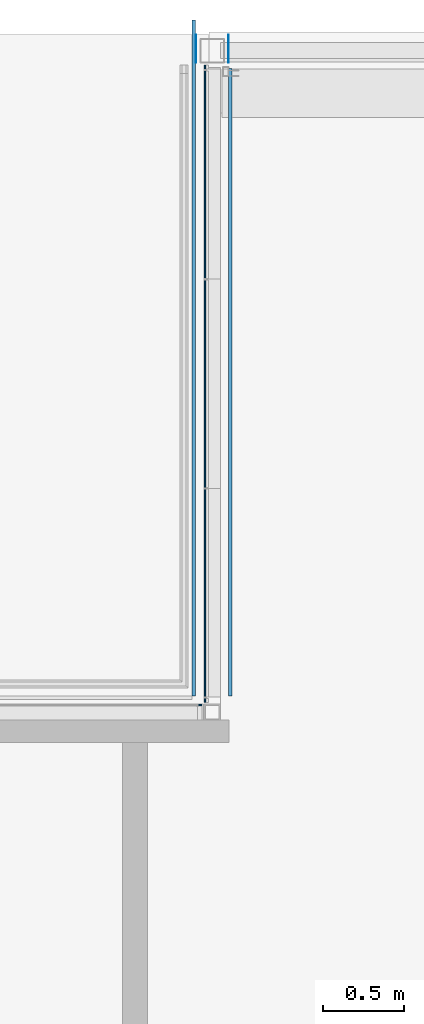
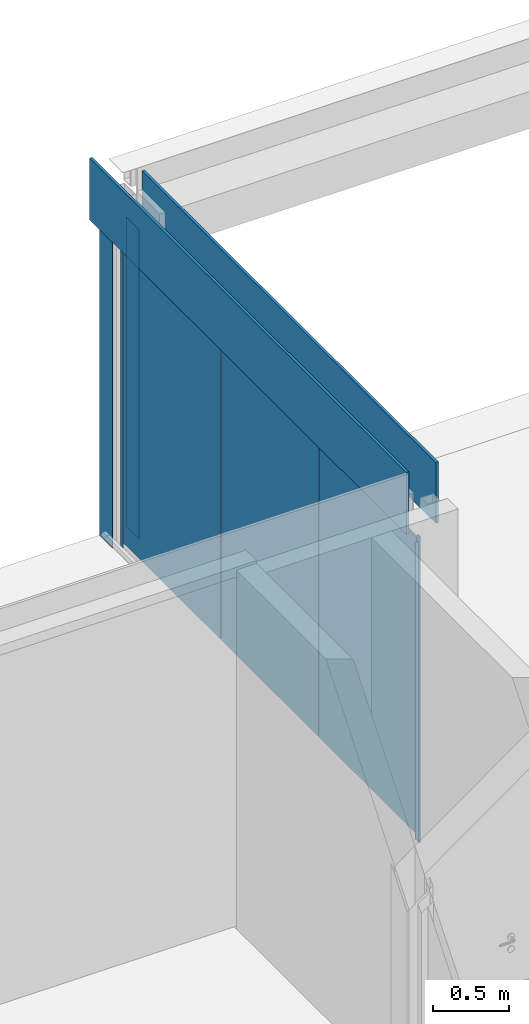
# One storey, part 16 of 37: 11 plates, 7 elements without a shape of their own.
"""IFC2X3 building model written with IfcOpenShell, lengths in millimetres."""

from ifc_helpers import new_model, entity, si_unit, converted_unit, derived_unit, direction, frame, origin, origin_with_axes, origin_2d_with_axis, place, context, subcontext, project, spatial, rectangle, extrude, source, transform, mapped, material, type_object, element, aggregate, save


model = new_model("IFC2X3")

# Units and contexts
model_context = context("Model", 3, precision=0.01, world=frame((0.0, 4.29681676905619e-09, 0.0)), true_north=direction((4.01073788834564e-13, 1.0)))
plan_context = context("Plan", 3, precision=0.01, world=frame((0.0, 4.29681676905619e-09, 0.0)), true_north=direction((4.01073788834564e-13, 1.0)))
body_context = subcontext(model_context, "Body", "Model", "MODEL_VIEW")
ifc_project = project(units=[converted_unit("PLANEANGLEUNIT", "DEGREE", entity("IfcPositiveLengthMeasure", 0.0174532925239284), si_unit("PLANEANGLEUNIT", "RADIAN"), dimensions=[0, 0, 0, 0, 0, 0, 0]), si_unit("AREAUNIT", "SQUARE_METRE"), si_unit("LENGTHUNIT", "METRE", prefix="MILLI"), si_unit("MASSUNIT", "GRAM", prefix="KILO"), si_unit("POWERUNIT", "WATT"), si_unit("PRESSUREUNIT", "PASCAL"), si_unit("FORCEUNIT", "NEWTON", prefix="KILO"), si_unit("ELECTRICVOLTAGEUNIT", "VOLT"), si_unit("ELECTRICCURRENTUNIT", "AMPERE"), si_unit("THERMODYNAMICTEMPERATUREUNIT", "DEGREE_CELSIUS"), si_unit("TIMEUNIT", "SECOND"), si_unit("VOLUMEUNIT", "CUBIC_METRE"), derived_unit("LINEARVELOCITYUNIT", [(si_unit("LENGTHUNIT", "METRE"), 1), (si_unit("TIMEUNIT", "SECOND"), -1)]), derived_unit("VOLUMETRICFLOWRATEUNIT", [(si_unit("VOLUMEUNIT", "CUBIC_METRE"), 1), (si_unit("TIMEUNIT", "SECOND"), -1)]), derived_unit("THERMALTRANSMITTANCEUNIT", [(si_unit("POWERUNIT", "WATT"), 1), (si_unit("THERMODYNAMICTEMPERATUREUNIT", "KELVIN"), -1), (si_unit("AREAUNIT", "SQUARE_METRE"), -1)]), derived_unit("SOUNDPRESSUREUNIT", [(si_unit("PRESSUREUNIT", "PASCAL"), 1)])], contexts=[model_context, plan_context])

# Site, building, storey
site_placement = place(None, origin_with_axes())
site = spatial("IfcSite", under=ifc_project, at=site_placement, Name="ENGM", CompositionType="ELEMENT")
building_placement = place(site_placement, origin_with_axes())
building = spatial("IfcBuilding", under=site, at=building_placement, Name="TS", CompositionType="ELEMENT")
storey_placement = place(building_placement, frame((0.0, 0.0, 210900.0), z_axis=(0.0, 0.0, 1.0), x_axis=(1.0, 0.0, 0.0)))
storey = spatial("IfcBuildingStorey", under=building, at=storey_placement, Name="Nivå F", CompositionType="ELEMENT", Elevation=210900.0)

# Curtain wall, plate
curtain_wall_type_1 = type_object("IfcCurtainWallType", Name="Curtain Wall:A245 - IMK - Metal Kledning", PredefinedType="NOTDEFINED")
curtain_wall_1_placement = place(storey_placement, frame((0.0, 0.0, -210900.0), z_axis=(0.0, 0.0, 1.0), x_axis=(1.0, 0.0, 0.0)))
curtain_wall_1 = element("IfcCurtainWall", 1, at=curtain_wall_1_placement, inside=storey, type_object=curtain_wall_type_1, Name="Curtain Wall:A245 - IMK - Metal Kledning", ObjectType="Curtain Wall:A245 - IMK - Metal Kledning")
ifc_material_1 = material(Name="Metal - Preget plate")
plate_type_1 = type_object("IfcPlateType", Name="System Panel:A245 - KL-M00 - - - skal byttes manuelt", PredefinedType="CURTAIN_PANEL", material=ifc_material_1)
shared_shape_1 = source(origin(), body_context, "Body", "SweptSolid", [
    extrude(rectangle(XDim=20.0, YDim=4189.99999999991, at=origin_2d_with_axis()), frame((0.0, 10.0, 0.0), z_axis=(0.0, 0.0, 1.0), x_axis=(0.0, 1.0, 0.0)), (0.0, 0.0, 1.0), 500.000000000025),
])
plate_1_placement = place(curtain_wall_1_placement, frame((524845.000000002, 459894.999999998, 213400.0), z_axis=(0.0, 0.0, 1.0), x_axis=(0.0, -1.0, 0.0)))
plate_1 = element("IfcPlate", 2, at=plate_1_placement, type_object=plate_type_1, material=ifc_material_1, Name="System Panel:A245 - KL-M00 - - - skal byttes manuelt", ObjectType="System Panel:A245 - KL-M00 - - - skal byttes manuelt", context=body_context, shape_type="MappedRepresentation", body=[
    mapped(shared_shape_1, transform((0.0, 0.0, 0.0), scale=1.0)),
])
aggregate(curtain_wall_1, [plate_1])

curtain_wall_2_placement = place(storey_placement, frame((0.0, 0.0, -210900.0), z_axis=(0.0, 0.0, 1.0), x_axis=(1.0, 0.0, 0.0)))
curtain_wall_2 = element("IfcCurtainWall", 3, at=curtain_wall_2_placement, inside=storey, type_object=curtain_wall_type_1, Name="Curtain Wall:A245 - IMK - Metal Kledning", ObjectType="Curtain Wall:A245 - IMK - Metal Kledning")
plate_type_2 = type_object("IfcPlateType", Name="System Panel:A245 - KL-M00 - - - skal byttes manuelt", PredefinedType="CURTAIN_PANEL", material=ifc_material_1)
shared_shape_2 = source(origin(), body_context, "Body", "SweptSolid", [
    extrude(rectangle(XDim=20.0, YDim=3889.99999999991, at=origin_2d_with_axis()), frame((0.0, -10.0, 0.0), z_axis=(0.0, 0.0, 1.0), x_axis=(0.0, 1.0, 0.0)), (0.0, 0.0, 1.0), 489.999999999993),
])
plate_2_placement = place(curtain_wall_2_placement, frame((525091.097587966, 459744.999999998, 213410.0), z_axis=(0.0, 0.0, 1.0), x_axis=(0.0, -1.0, 0.0)))
plate_2 = element("IfcPlate", 4, at=plate_2_placement, type_object=plate_type_2, material=ifc_material_1, Name="System Panel:A245 - KL-M00 - - - skal byttes manuelt", ObjectType="System Panel:A245 - KL-M00 - - - skal byttes manuelt", context=body_context, shape_type="MappedRepresentation", body=[
    mapped(shared_shape_2, transform((0.0, 0.0, 0.0), scale=1.0)),
])
aggregate(curtain_wall_2, [plate_2])

curtain_wall_type_2 = type_object("IfcCurtainWallType", Name="Curtain Wall:A245 - IMK - Metal Kledning 3mm", PredefinedType="NOTDEFINED")
curtain_wall_3_placement = place(storey_placement, frame((0.0, 0.0, -210900.0), z_axis=(0.0, 0.0, 1.0), x_axis=(1.0, 0.0, 0.0)))
curtain_wall_3 = element("IfcCurtainWall", 5, at=curtain_wall_3_placement, inside=storey, type_object=curtain_wall_type_2, Name="Curtain Wall:A245 - IMK - Metal Kledning 3mm", ObjectType="Curtain Wall:A245 - IMK - Metal Kledning 3mm")
ifc_material_2 = material(Name="T2_Metal_Aluminium")
plate_type_3 = type_object("IfcPlateType", Name="System Panel:A245 - KL-M01 - Veggkledning metallplate plan", PredefinedType="CURTAIN_PANEL", material=ifc_material_2)
shared_shape_3 = source(origin(), body_context, "Body", "SweptSolid", [
    extrude(rectangle(XDim=3.0, YDim=175.000000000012, at=origin_2d_with_axis()), frame((0.0, 1.5, 0.0), z_axis=(0.0, 0.0, 1.0), x_axis=(0.0, 1.0, 0.0)), (0.0, 0.0, 1.0), 2499.99999999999),
])
plate_3_placement = place(curtain_wall_3_placement, frame((524870.000000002, 461812.499999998, 210900.0), z_axis=(0.0, 0.0, 1.0), x_axis=(0.0, 1.0, 0.0)))
plate_3 = element("IfcPlate", 6, at=plate_3_placement, type_object=plate_type_3, material=ifc_material_2, Name="System Panel:A245 - KL-M01 - Veggkledning metallplate plan", ObjectType="System Panel:A245 - KL-M01 - Veggkledning metallplate plan", context=body_context, shape_type="MappedRepresentation", body=[
    mapped(shared_shape_3, transform((0.0, 0.0, 0.0), scale=1.0)),
])
aggregate(curtain_wall_3, [plate_3])

curtain_wall_4_placement = place(storey_placement, frame((0.0, 0.0, -210900.0), z_axis=(0.0, 0.0, 1.0), x_axis=(1.0, 0.0, 0.0)))
curtain_wall_4 = element("IfcCurtainWall", 7, at=curtain_wall_4_placement, inside=storey, type_object=curtain_wall_type_2, Name="Curtain Wall:A245 - IMK - Metal Kledning 3mm", ObjectType="Curtain Wall:A245 - IMK - Metal Kledning 3mm")
plate_type_4 = type_object("IfcPlateType", Name="System Panel:A245 - KL-M01 - Veggkledning metallplate plan", PredefinedType="CURTAIN_PANEL", material=ifc_material_2)
shared_shape_4 = source(origin(), body_context, "Body", "SweptSolid", [
    extrude(rectangle(XDim=3.0, YDim=175.000000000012, at=origin_2d_with_axis()), frame((0.0, -1.5, 0.0), z_axis=(0.0, 0.0, 1.0), x_axis=(0.0, 1.0, 0.0)), (0.0, 0.0, 1.0), 2499.99999999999),
])
plate_4_placement = place(curtain_wall_4_placement, frame((525070.000000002, 461812.499999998, 210900.0), z_axis=(0.0, 0.0, 1.0), x_axis=(0.0, 1.0, 0.0)))
plate_4 = element("IfcPlate", 8, at=plate_4_placement, type_object=plate_type_4, material=ifc_material_2, Name="System Panel:A245 - KL-M01 - Veggkledning metallplate plan", ObjectType="System Panel:A245 - KL-M01 - Veggkledning metallplate plan", context=body_context, shape_type="MappedRepresentation", body=[
    mapped(shared_shape_4, transform((0.0, 0.0, 0.0), scale=1.0)),
])
aggregate(curtain_wall_4, [plate_4])

curtain_wall_5_placement = place(storey_placement, frame((0.0, 0.0, -210900.0), z_axis=(0.0, 0.0, 1.0), x_axis=(1.0, 0.0, 0.0)))
curtain_wall_5 = element("IfcCurtainWall", 9, at=curtain_wall_5_placement, inside=storey, type_object=curtain_wall_type_2, Name="Curtain Wall:A245 - IMK - Metal Kledning 3mm", ObjectType="Curtain Wall:A245 - IMK - Metal Kledning 3mm")
plate_5_placement = place(curtain_wall_5_placement, frame((525070.000000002, 461812.499999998, 210900.0), z_axis=(0.0, 0.0, 1.0), x_axis=(0.0, 1.0, 0.0)))
plate_5 = element("IfcPlate", 10, at=plate_5_placement, type_object=plate_type_4, material=ifc_material_2, Name="System Panel:A245 - KL-M01 - Veggkledning metallplate plan", ObjectType="System Panel:A245 - KL-M01 - Veggkledning metallplate plan", context=body_context, shape_type="MappedRepresentation", body=[
    mapped(shared_shape_4, transform((0.0, 0.0, 0.0), scale=1.0)),
])
aggregate(curtain_wall_5, [plate_5])

# Curtain wall, plates
curtain_wall_type_3 = type_object("IfcCurtainWallType", Name="Curtain Wall:A242 - IGV - Glass - 10 mm", PredefinedType="NOTDEFINED")
curtain_wall_6_placement = place(storey_placement, frame((0.0, 0.0, -210900.0), z_axis=(0.0, 0.0, 1.0), x_axis=(1.0, 0.0, 0.0)))
curtain_wall_6 = element("IfcCurtainWall", 11, at=curtain_wall_6_placement, inside=storey, type_object=curtain_wall_type_3, Name="Curtain Wall:A242 - IGV - Glass - 10 mm", ObjectType="Curtain Wall:A242 - IGV - Glass - 10 mm")
ifc_material_3 = material(Name="Glass(Avinor)")
plate_type_5 = type_object("IfcPlateType", Name="System Panel:A245 - Glass - 10 mm", PredefinedType="CURTAIN_PANEL", material=ifc_material_3)
shared_shape_5 = source(origin(), body_context, "Body", "SweptSolid", [
    extrude(rectangle(XDim=10.0, YDim=25.0000000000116, at=origin_2d_with_axis()), frame((0.0, -5.0, 0.0), z_axis=(0.0, 0.0, 1.0), x_axis=(0.0, 1.0, 0.0)), (0.0, 0.0, 1.0), 2475.00000000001),
])
plate_6_placement = place(curtain_wall_6_placement, frame((524920.000000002, 457772.499999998, 210905.0), z_axis=(0.0, 0.0, 1.0), x_axis=(0.0, 1.0, 0.0)))
plate_6 = element("IfcPlate", 12, at=plate_6_placement, type_object=plate_type_5, material=ifc_material_3, Name="System Panel:A245 - Glass - 10 mm", ObjectType="System Panel:A245 - Glass - 10 mm", context=body_context, shape_type="MappedRepresentation", body=[
    mapped(shared_shape_5, transform((0.0, 0.0, 0.0), scale=1.0)),
])
plate_7_placement = place(curtain_wall_6_placement, frame((524920.000000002, 461697.499999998, 210905.0), z_axis=(0.0, 0.0, 1.0), x_axis=(0.0, 1.0, 0.0)))
plate_7 = element("IfcPlate", 13, at=plate_7_placement, type_object=plate_type_5, material=ifc_material_3, Name="System Panel:A245 - Glass - 10 mm", ObjectType="System Panel:A245 - Glass - 10 mm", context=body_context, shape_type="MappedRepresentation", body=[
    mapped(shared_shape_5, transform((0.0, 0.0, 0.0), scale=1.0)),
])
plate_type_6 = type_object("IfcPlateType", Name="System Panel:A245 - Glass - 10 mm", PredefinedType="CURTAIN_PANEL", material=ifc_material_3)
shared_shape_6 = source(origin(), body_context, "Body", "SweptSolid", [
    extrude(rectangle(XDim=10.0, YDim=1286.66666666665, at=origin_2d_with_axis()), frame((0.0, -5.0, 0.0), z_axis=(0.0, 0.0, 1.0), x_axis=(0.0, 1.0, 0.0)), (0.0, 0.0, 1.0), 2400.00000000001),
])
plate_8_placement = place(curtain_wall_6_placement, frame((524920.000000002, 458438.333333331, 210955.0), z_axis=(0.0, 0.0, 1.0), x_axis=(0.0, 1.0, 0.0)))
plate_8 = element("IfcPlate", 14, at=plate_8_placement, type_object=plate_type_6, material=ifc_material_3, Name="System Panel:A245 - Glass - 10 mm", ObjectType="System Panel:A245 - Glass - 10 mm", context=body_context, shape_type="MappedRepresentation", body=[
    mapped(shared_shape_6, transform((0.0, 0.0, 0.0), scale=1.0)),
])
plate_9_placement = place(curtain_wall_6_placement, frame((524920.000000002, 459734.999999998, 210955.0), z_axis=(0.0, 0.0, 1.0), x_axis=(0.0, 1.0, 0.0)))
plate_9 = element("IfcPlate", 15, at=plate_9_placement, type_object=plate_type_6, material=ifc_material_3, Name="System Panel:A245 - Glass - 10 mm", ObjectType="System Panel:A245 - Glass - 10 mm", context=body_context, shape_type="MappedRepresentation", body=[
    mapped(shared_shape_6, transform((0.0, 0.0, 0.0), scale=1.0)),
])
plate_10_placement = place(curtain_wall_6_placement, frame((524920.000000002, 461031.666666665, 210955.0), z_axis=(0.0, 0.0, 1.0), x_axis=(0.0, 1.0, 0.0)))
plate_10 = element("IfcPlate", 16, at=plate_10_placement, type_object=plate_type_6, material=ifc_material_3, Name="System Panel:A245 - Glass - 10 mm", ObjectType="System Panel:A245 - Glass - 10 mm", context=body_context, shape_type="MappedRepresentation", body=[
    mapped(shared_shape_6, transform((0.0, 0.0, 0.0), scale=1.0)),
])
aggregate(curtain_wall_6, [plate_6, plate_8, plate_9, plate_10, plate_7])

# Curtain wall, plate
curtain_wall_7_placement = place(storey_placement, frame((0.0, 0.0, -210900.0), z_axis=(0.0, 0.0, 1.0), x_axis=(1.0, 0.0, 0.0)))
curtain_wall_7 = element("IfcCurtainWall", 17, at=curtain_wall_7_placement, inside=storey, type_object=curtain_wall_type_3, Name="Curtain Wall:A242 - IGV - Glass - 10 mm", ObjectType="Curtain Wall:A242 - IGV - Glass - 10 mm")
plate_type_7 = type_object("IfcPlateType", Name="System Panel:A245 - Glass - 10 mm", PredefinedType="CURTAIN_PANEL", material=ifc_material_3)
shared_shape_7 = source(origin(), body_context, "Body", "SweptSolid", [
    extrude(rectangle(XDim=10.0, YDim=22.7499999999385, at=origin_2d_with_axis()), frame((0.0, -5.0, 0.0), z_axis=(0.0, 0.0, 1.0), x_axis=(0.0, 1.0, 0.0)), (0.0, 0.0, 1.0), 2400.00000000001),
])
plate_11_placement = place(curtain_wall_7_placement, frame((524893.625000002, 457749.999999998, 210955.0), z_axis=(0.0, 0.0, 1.0), x_axis=(1.0, 0.0, 0.0)))
plate_11 = element("IfcPlate", 18, at=plate_11_placement, type_object=plate_type_7, material=ifc_material_3, Name="System Panel:A245 - Glass - 10 mm", ObjectType="System Panel:A245 - Glass - 10 mm", context=body_context, shape_type="MappedRepresentation", body=[
    mapped(shared_shape_7, transform((0.0, 0.0, 0.0), scale=1.0)),
])
aggregate(curtain_wall_7, [plate_11])

save(model, "model.ifc")
